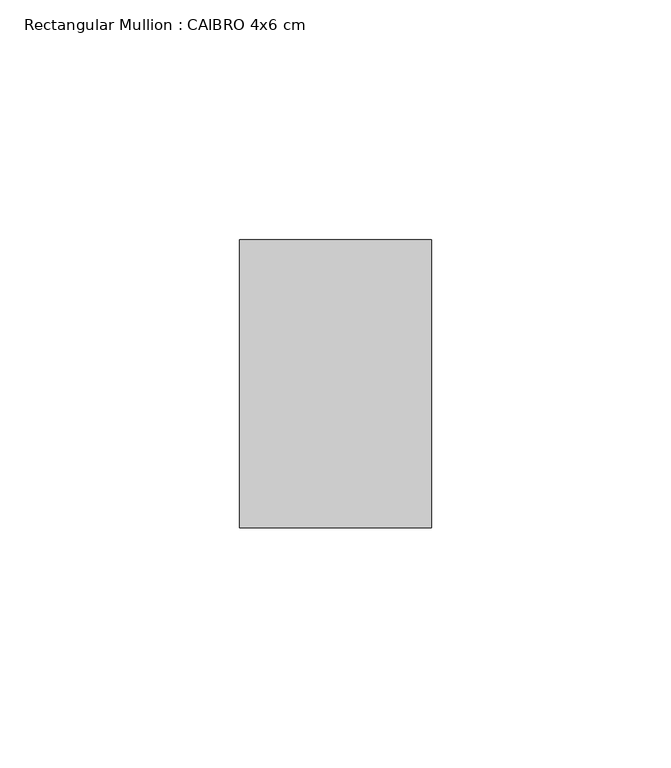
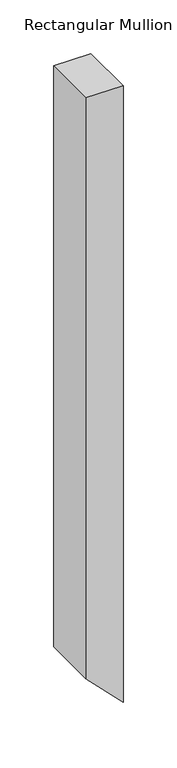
"""IFC4 building model written with IfcOpenShell, lengths in millimetres: member geometry, Rectangular Mullion : CAIBRO 4x6 cm."""

from ifc_helpers import new_model, si_unit, frame, origin, place, context, project, spatial, polyline, outline, extrude, source, transform, mapped, element, save


def rectangular_mullion_caibro_4x6_cm_17af2db9(model_context):
    return source(origin(), model_context, "Body", "SweptSolid", [
        extrude(outline(polyline([(0.0, 0.0), (0.0, -40.0), (-660.5011642, -40.0), (-700.948661, 0.0), (0.0, 0.0)])), frame((0.0, 0.0, 0.0), z_axis=(0.0, 1.0, 0.0), x_axis=(0.0, 0.0, 1.0)), (0.0, 0.0, 1.0), 60.0),
    ])


if __name__ == "__main__":
    model = new_model("IFC4")
    model_context = context("Model", 3, world=origin())
    ifc_project = project(units=[si_unit("LENGTHUNIT", "METRE", prefix="MILLI")], contexts=[model_context])
    site = spatial("IfcSite", under=ifc_project)
    building = spatial("IfcBuilding", under=site)
    placement = place(None, origin())
    rectangular_mullion_caibro_4x6_cm_shape = rectangular_mullion_caibro_4x6_cm_17af2db9(model_context)
    element("IfcMember", 1, ObjectType="Rectangular Mullion : CAIBRO 4x6 cm", at=placement, inside=building, context=model_context, shape_type="MappedRepresentation", body=[
        mapped(rectangular_mullion_caibro_4x6_cm_shape, transform((0.0, 0.0, 0.0), x_axis=(1.0, 0.0, 0.0), y_axis=(0.0, 1.0, 0.0), z_axis=(0.0, 0.0, 1.0))),
    ])
    save(model, "model.ifc")
